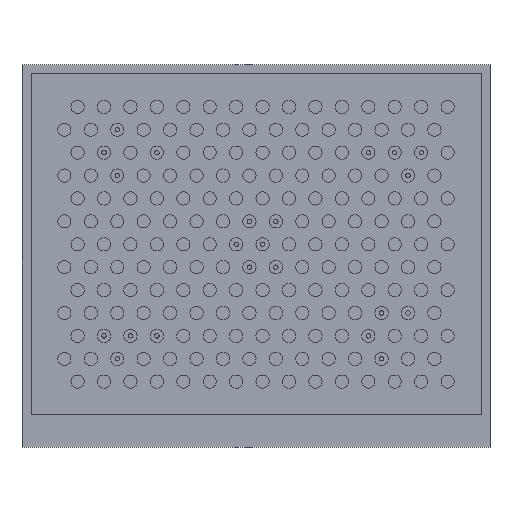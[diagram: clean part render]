
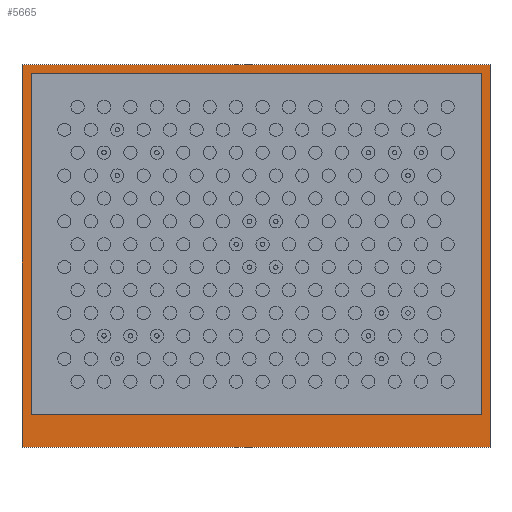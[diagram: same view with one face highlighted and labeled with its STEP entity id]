
A CAD part, top view. The second image highlights one B-rep face of the part: STEP entity #5665.
In plain terms, the highlighted planar face has unit normal (0, 0, 1).
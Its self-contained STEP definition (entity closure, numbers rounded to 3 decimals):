
#209=FACE_BOUND('',#1345,.T.);
#259=PLANE('',#6564);
#704=FACE_OUTER_BOUND('',#1344,.T.);
#1344=EDGE_LOOP('',(#4714,#4715,#4716,#4717));
#1345=EDGE_LOOP('',(#4718,#4719,#4720,#4721));
#1774=LINE('',#10017,#2015);
#1778=LINE('',#10025,#2019);
#1781=LINE('',#10031,#2022);
#1784=LINE('',#10036,#2025);
#1797=LINE('',#10119,#2038);
#1798=LINE('',#10121,#2039);
#1799=LINE('',#10123,#2040);
#1800=LINE('',#10124,#2041);
#2015=VECTOR('',#8233,10.);
#2019=VECTOR('',#8239,10.);
#2022=VECTOR('',#8244,10.);
#2025=VECTOR('',#8249,10.);
#2038=VECTOR('',#8354,10.);
#2039=VECTOR('',#8355,10.);
#2040=VECTOR('',#8356,10.);
#2041=VECTOR('',#8357,10.);
#2896=VERTEX_POINT('',#10015);
#2897=VERTEX_POINT('',#10016);
#2900=VERTEX_POINT('',#10024);
#2902=VERTEX_POINT('',#10030);
#2926=VERTEX_POINT('',#10117);
#2927=VERTEX_POINT('',#10118);
#2928=VERTEX_POINT('',#10120);
#2929=VERTEX_POINT('',#10122);
#3552=EDGE_CURVE('',#2896,#2897,#1774,.T.);
#3556=EDGE_CURVE('',#2897,#2900,#1778,.T.);
#3559=EDGE_CURVE('',#2900,#2902,#1781,.T.);
#3562=EDGE_CURVE('',#2902,#2896,#1784,.T.);
#3597=EDGE_CURVE('',#2926,#2927,#1797,.T.);
#3598=EDGE_CURVE('',#2927,#2928,#1798,.T.);
#3599=EDGE_CURVE('',#2928,#2929,#1799,.T.);
#3600=EDGE_CURVE('',#2929,#2926,#1800,.T.);
#4714=ORIENTED_EDGE('',*,*,#3597,.T.);
#4715=ORIENTED_EDGE('',*,*,#3598,.T.);
#4716=ORIENTED_EDGE('',*,*,#3599,.T.);
#4717=ORIENTED_EDGE('',*,*,#3600,.T.);
#4718=ORIENTED_EDGE('',*,*,#3552,.T.);
#4719=ORIENTED_EDGE('',*,*,#3556,.T.);
#4720=ORIENTED_EDGE('',*,*,#3559,.T.);
#4721=ORIENTED_EDGE('',*,*,#3562,.T.);
#5665=ADVANCED_FACE('',(#704,#209),#259,.T.);
#6564=AXIS2_PLACEMENT_3D('',#10116,#8352,#8353);
#8233=DIRECTION('',(-1.,0.,0.));
#8239=DIRECTION('',(0.,1.,0.));
#8244=DIRECTION('',(1.,0.,0.));
#8249=DIRECTION('',(0.,-1.,0.));
#8352=DIRECTION('center_axis',(0.,0.,1.));
#8353=DIRECTION('ref_axis',(1.,0.,0.));
#8354=DIRECTION('',(1.,0.,0.));
#8355=DIRECTION('',(0.,1.,0.));
#8356=DIRECTION('',(-1.,0.,0.));
#8357=DIRECTION('',(0.,-1.,0.));
#10015=CARTESIAN_POINT('',(50.,-35.3,2.));
#10016=CARTESIAN_POINT('',(-50.,-35.3,2.));
#10017=CARTESIAN_POINT('',(-25.,-35.3,2.));
#10024=CARTESIAN_POINT('',(-50.,40.5,2.));
#10025=CARTESIAN_POINT('',(-50.,20.25,2.));
#10030=CARTESIAN_POINT('',(50.,40.5,2.));
#10031=CARTESIAN_POINT('',(25.,40.5,2.));
#10036=CARTESIAN_POINT('',(50.,-17.65,2.));
#10116=CARTESIAN_POINT('Origin',(0.,0.,
2.));
#10117=CARTESIAN_POINT('',(-52.,-42.5,2.));
#10118=CARTESIAN_POINT('',(52.,-42.5,2.));
#10119=CARTESIAN_POINT('',(-52.,-42.5,2.));
#10120=CARTESIAN_POINT('',(52.,42.5,2.));
#10121=CARTESIAN_POINT('',(52.,-42.5,2.));
#10122=CARTESIAN_POINT('',(-52.,42.5,2.));
#10123=CARTESIAN_POINT('',(52.,42.5,2.));
#10124=CARTESIAN_POINT('',(-52.,42.5,2.));
